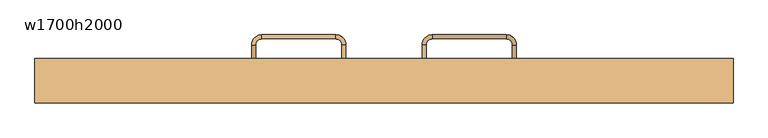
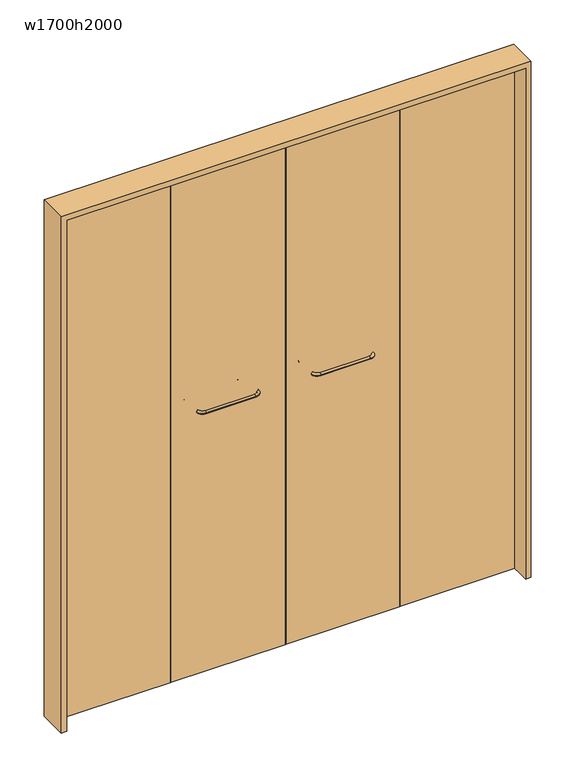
"""IFC4 building model written with IfcOpenShell, lengths in millimetres: door geometry, 木製折戸 : w1700h2000."""

from ifc_helpers import new_model, si_unit, point, frame, origin, origin_with_axes, place, context, project, spatial, polyline, circle_curve, ellipse_curve, trimmed, outline, extrude, source, transform, mapped, element, save
from ifc_brep_helpers import cylinder_surface, revolved_surface, advanced_brep


def w1700h2000_7aeca4b8(model_context):
    return source(origin(), model_context, "Body", "SolidModel", [
        extrude(outline(polyline([(2020.0, -870.0), (0.0, -870.0), (0.0, -850.0), (2000.0, -850.0), (2000.0, 850.0), (0.0, 850.0), (0.0, 870.0), (2020.0, 870.0), (2020.0, -870.0)])), frame((0.0, -55.0, 0.0), z_axis=(0.0, 1.0, 0.0), x_axis=(0.0, 0.0, 1.0)), (0.0, 0.0, 1.0), 110.0),
        extrude(outline(polyline([(423.0, 15.0), (2.0, 15.0), (2.0, 45.0), (423.0, 45.0), (423.0, 15.0)])), origin_with_axes(), (0.0, 0.0, 1.0), 2000.0),
        extrude(outline(polyline([(850.0, 15.0), (427.0, 15.0), (427.0, 45.0), (850.0, 45.0), (850.0, 15.0)])), origin_with_axes(), (0.0, 0.0, 1.0), 2000.0),
        extrude(outline(polyline([(-2.0, 15.0), (-423.0, 15.0), (-423.0, 45.0), (-2.0, 45.0), (-2.0, 15.0)])), origin_with_axes(), (0.0, 0.0, 1.0), 2000.0),
        extrude(outline(polyline([(-427.0, 15.0), (-850.0, 15.0), (-850.0, 45.0), (-427.0, 45.0), (-427.0, 15.0)])), origin_with_axes(), (0.0, 0.0, 1.0), 2000.0),
        advanced_brep(
        [(95.0, 20.0, 1025.0), (120.0, -5.0, 1025.0), (120.0, 5.0, 1025.0), (105.0, 20.0, 1025.0), (105.0, 90.0, 1025.0), (95.0, 90.0, 1025.0), (120.0, 115.0, 1025.0), (120.0, 105.0, 1025.0), (305.0, 105.0, 1025.0), (305.0, 115.0, 1025.0), (330.0, 90.0, 1025.0), (320.0, 90.0, 1025.0), (320.0, 20.0, 1025.0), (330.0, 20.0, 1025.0), (305.0, -5.0, 1025.0), (305.0, 5.0, 1025.0)],
        [
            (0, 1, circle_curve(frame((120.0, 20.0, 1025.0), z_axis=(0.0, 0.0, 1.0), x_axis=(0.0, -1.0, 0.0)), 25.0)),
            (1, 2, circle_curve(frame((120.0, 0.0, 1025.0), z_axis=(-1.0, 0.0, 0.0), x_axis=(0.0, -1.0, 0.0)), 5.0)),
            (2, 3, circle_curve(frame((120.0, 20.0, 1025.0), z_axis=(0.0, 0.0, -1.0), x_axis=(0.0, -1.0, 0.0)), 15.0)),
            (3, 0, circle_curve(frame((100.0, 20.0, 1025.0), z_axis=(0.0, -1.0, 0.0), x_axis=(-1.0, 0.0, 0.0)), 5.0)),
            (2, 1, circle_curve(frame((120.0, 0.0, 1025.0), z_axis=(-1.0, 0.0, 0.0), x_axis=(0.0, -1.0, 0.0)), 5.0)),
            (0, 3, circle_curve(frame((100.0, 20.0, 1025.0), z_axis=(0.0, -1.0, 0.0), x_axis=(-1.0, 0.0, 0.0)), 5.0)),
            (3, 4),
            (4, 5, circle_curve(frame((100.0, 90.0, 1025.0), z_axis=(0.0, -1.0, 0.0), x_axis=(-1.0, 0.0, 0.0)), 5.0)),
            (5, 0),
            (5, 4, circle_curve(frame((100.0, 90.0, 1025.0), z_axis=(0.0, -1.0, 0.0), x_axis=(-1.0, 0.0, 0.0)), 5.0)),
            (6, 5, circle_curve(frame((120.0, 90.0, 1025.0), z_axis=(0.0, 0.0, 1.0), x_axis=(-1.0, 0.0, 0.0)), 25.0)),
            (4, 7, circle_curve(frame((120.0, 90.0, 1025.0), z_axis=(0.0, 0.0, -1.0), x_axis=(-1.0, 0.0, 0.0)), 15.0)),
            (7, 6, circle_curve(frame((120.0, 110.0, 1025.0), z_axis=(-1.0, 0.0, 0.0), x_axis=(0.0, 1.0, 0.0)), 5.0)),
            (6, 7, circle_curve(frame((120.0, 110.0, 1025.0), z_axis=(-1.0, 0.0, 0.0), x_axis=(0.0, 1.0, 0.0)), 5.0)),
            (7, 8),
            (8, 9, circle_curve(frame((305.0, 110.0, 1025.0), z_axis=(-1.0, 0.0, 0.0), x_axis=(0.0, 1.0, 0.0)), 5.0)),
            (9, 6),
            (9, 8, circle_curve(frame((305.0, 110.0, 1025.0), z_axis=(-1.0, 0.0, 0.0), x_axis=(0.0, 1.0, 0.0)), 5.0)),
            (10, 9, circle_curve(frame((305.0, 90.0, 1025.0), z_axis=(0.0, 0.0, 1.0), x_axis=(0.0, 1.0, 0.0)), 25.0)),
            (8, 11, circle_curve(frame((305.0, 90.0, 1025.0), z_axis=(0.0, 0.0, -1.0), x_axis=(0.0, 1.0, 0.0)), 15.0)),
            (11, 10, circle_curve(frame((325.0, 90.0, 1025.0), z_axis=(0.0, 1.0, 0.0), x_axis=(1.0, 0.0, 0.0)), 5.0)),
            (10, 11, circle_curve(frame((325.0, 90.0, 1025.0), z_axis=(0.0, 1.0, 0.0), x_axis=(1.0, 0.0, 0.0)), 5.0)),
            (11, 12),
            (12, 13, circle_curve(frame((325.0, 20.0, 1025.0), z_axis=(0.0, 1.0, 0.0), x_axis=(1.0, 0.0, 0.0)), 5.0)),
            (13, 10),
            (13, 12, circle_curve(frame((325.0, 20.0, 1025.0), z_axis=(0.0, 1.0, 0.0), x_axis=(1.0, 0.0, 0.0)), 5.0)),
            (14, 13, circle_curve(frame((305.0, 20.0, 1025.0), z_axis=(0.0, 0.0, 1.0), x_axis=(1.0, 0.0, 0.0)), 25.0)),
            (12, 15, circle_curve(frame((305.0, 20.0, 1025.0), z_axis=(0.0, 0.0, -1.0), x_axis=(1.0, 0.0, 0.0)), 15.0)),
            (15, 14, circle_curve(frame((305.0, 0.0, 1025.0), z_axis=(1.0, 0.0, 0.0), x_axis=(0.0, -1.0, 0.0)), 5.0)),
            (14, 15, circle_curve(frame((305.0, 0.0, 1025.0), z_axis=(1.0, 0.0, 0.0), x_axis=(0.0, -1.0, 0.0)), 5.0)),
            (15, 2),
            (1, 14),
        ],
        [
            revolved_surface(trimmed(ellipse_curve(frame((120.0, 0.0, 1025.0), z_axis=(1.0, 0.0, 0.0), x_axis=(0.0, -1.0, 0.0)), 5.0, 5.0), [point((120.0, 5.0, 1025.0))], [point((120.0, -5.0, 1025.0))], True, "CARTESIAN"), (120.0, 20.0, 0.0), (0.0, 0.0, -1.0)),
            revolved_surface(trimmed(ellipse_curve(frame((120.0, 0.0, 1025.0), z_axis=(1.0, 0.0, 0.0), x_axis=(0.0, -1.0, 0.0)), 5.0, 5.0), [point((120.0, -5.0, 1025.0))], [point((120.0, 5.0, 1025.0))], True, "CARTESIAN"), (120.0, 20.0, 0.0), (0.0, 0.0, -1.0)),
            cylinder_surface(frame((100.0, 20.0, 1025.0), z_axis=(0.0, -1.0, 0.0), x_axis=(-1.0, 0.0, 0.0)), 5.0),
            revolved_surface(trimmed(ellipse_curve(frame((100.0, 90.0, 1025.0), z_axis=(0.0, -1.0, 0.0), x_axis=(-1.0, 0.0, 0.0)), 5.0, 5.0), [point((105.0, 90.0, 1025.0))], [point((95.0, 90.0, 1025.0))], True, "CARTESIAN"), (120.0, 90.0, 0.0), (0.0, 0.0, -1.0)),
            revolved_surface(trimmed(ellipse_curve(frame((100.0, 90.0, 1025.0), z_axis=(0.0, -1.0, 0.0), x_axis=(-1.0, 0.0, 0.0)), 5.0, 5.0), [point((95.0, 90.0, 1025.0))], [point((105.0, 90.0, 1025.0))], True, "CARTESIAN"), (120.0, 90.0, 0.0), (0.0, 0.0, -1.0)),
            cylinder_surface(frame((120.0, 110.0, 1025.0), z_axis=(-1.0, 0.0, 0.0), x_axis=(0.0, 1.0, 0.0)), 5.0),
            revolved_surface(trimmed(ellipse_curve(frame((305.0, 110.0, 1025.0), z_axis=(-1.0, 0.0, 0.0), x_axis=(0.0, 1.0, 0.0)), 5.0, 5.0), [point((305.0, 105.0, 1025.0))], [point((305.0, 115.0, 1025.0))], True, "CARTESIAN"), (305.0, 90.0, 0.0), (0.0, 0.0, -1.0)),
            revolved_surface(trimmed(ellipse_curve(frame((305.0, 110.0, 1025.0), z_axis=(-1.0, 0.0, 0.0), x_axis=(0.0, 1.0, 0.0)), 5.0, 5.0), [point((305.0, 115.0, 1025.0))], [point((305.0, 105.0, 1025.0))], True, "CARTESIAN"), (305.0, 90.0, 0.0), (0.0, 0.0, -1.0)),
            cylinder_surface(frame((325.0, 90.0, 1025.0), z_axis=(0.0, 1.0, 0.0), x_axis=(1.0, 0.0, 0.0)), 5.0),
            revolved_surface(trimmed(ellipse_curve(frame((325.0, 20.0, 1025.0), z_axis=(0.0, 1.0, 0.0), x_axis=(1.0, 0.0, 0.0)), 5.0, 5.0), [point((320.0, 20.0, 1025.0))], [point((330.0, 20.0, 1025.0))], True, "CARTESIAN"), (305.0, 20.0, 0.0), (0.0, 0.0, -1.0)),
            revolved_surface(trimmed(ellipse_curve(frame((325.0, 20.0, 1025.0), z_axis=(0.0, 1.0, 0.0), x_axis=(1.0, 0.0, 0.0)), 5.0, 5.0), [point((330.0, 20.0, 1025.0))], [point((320.0, 20.0, 1025.0))], True, "CARTESIAN"), (305.0, 20.0, 0.0), (0.0, 0.0, -1.0)),
            cylinder_surface(frame((305.0, 0.0, 1025.0), z_axis=(1.0, 0.0, 0.0), x_axis=(0.0, -1.0, 0.0)), 5.0),
        ],
        [
            (0, [[1, 2, 3, 4]]),
            (1, [[-3, 5, -1, 6]]),
            (2, [[-4, 7, 8, 9]]),
            (2, [[-6, -9, 10, -7]]),
            (3, [[11, -8, 12, 13]]),
            (4, [[-12, -10, -11, 14]]),
            (5, [[-13, 15, 16, 17]]),
            (5, [[-14, -17, 18, -15]]),
            (6, [[19, -16, 20, 21]]),
            (7, [[-20, -18, -19, 22]]),
            (8, [[-21, 23, 24, 25]]),
            (8, [[-22, -25, 26, -23]]),
            (9, [[27, -24, 28, 29]]),
            (10, [[-28, -26, -27, 30]]),
            (11, [[-29, 31, -2, 32]]),
            (11, [[-30, -32, -5, -31]]),
        ],
    ),
        advanced_brep(
        [(-105.0, 20.0, 1025.0), (-120.0, 5.0, 1025.0), (-120.0, -5.0, 1025.0), (-95.0, 20.0, 1025.0), (-95.0, 90.0, 1025.0), (-105.0, 90.0, 1025.0), (-120.0, 105.0, 1025.0), (-120.0, 115.0, 1025.0), (-305.0, 115.0, 1025.0), (-305.0, 105.0, 1025.0), (-320.0, 90.0, 1025.0), (-330.0, 90.0, 1025.0), (-330.0, 20.0, 1025.0), (-320.0, 20.0, 1025.0), (-305.0, 5.0, 1025.0), (-305.0, -5.0, 1025.0)],
        [
            (0, 1, circle_curve(frame((-120.0, 20.0, 1025.0), z_axis=(0.0, 0.0, -1.0), x_axis=(0.0, -1.0, 0.0)), 15.0)),
            (1, 2, circle_curve(frame((-120.0, 0.0, 1025.0), z_axis=(1.0, 0.0, 0.0), x_axis=(0.0, 1.0, 0.0)), 5.0)),
            (2, 3, circle_curve(frame((-120.0, 20.0, 1025.0), z_axis=(0.0, 0.0, 1.0), x_axis=(0.0, -1.0, 0.0)), 25.0)),
            (3, 0, circle_curve(frame((-100.0, 20.0, 1025.0), z_axis=(0.0, -1.0, 0.0), x_axis=(-1.0, 0.0, 0.0)), 5.0)),
            (2, 1, circle_curve(frame((-120.0, 0.0, 1025.0), z_axis=(1.0, 0.0, 0.0), x_axis=(0.0, 1.0, 0.0)), 5.0)),
            (0, 3, circle_curve(frame((-100.0, 20.0, 1025.0), z_axis=(0.0, -1.0, 0.0), x_axis=(-1.0, 0.0, 0.0)), 5.0)),
            (3, 4),
            (4, 5, circle_curve(frame((-100.0, 90.0, 1025.0), z_axis=(0.0, -1.0, 0.0), x_axis=(-1.0, 0.0, 0.0)), 5.0)),
            (5, 0),
            (5, 4, circle_curve(frame((-100.0, 90.0, 1025.0), z_axis=(0.0, -1.0, 0.0), x_axis=(-1.0, 0.0, 0.0)), 5.0)),
            (6, 5, circle_curve(frame((-120.0, 90.0, 1025.0), z_axis=(0.0, 0.0, -1.0), x_axis=(1.0, 0.0, 0.0)), 15.0)),
            (4, 7, circle_curve(frame((-120.0, 90.0, 1025.0), z_axis=(0.0, 0.0, 1.0), x_axis=(1.0, 0.0, 0.0)), 25.0)),
            (7, 6, circle_curve(frame((-120.0, 110.0, 1025.0), z_axis=(1.0, 0.0, 0.0), x_axis=(0.0, -1.0, 0.0)), 5.0)),
            (6, 7, circle_curve(frame((-120.0, 110.0, 1025.0), z_axis=(1.0, 0.0, 0.0), x_axis=(0.0, -1.0, 0.0)), 5.0)),
            (7, 8),
            (8, 9, circle_curve(frame((-305.0, 110.0, 1025.0), z_axis=(1.0, 0.0, 0.0), x_axis=(0.0, -1.0, 0.0)), 5.0)),
            (9, 6),
            (9, 8, circle_curve(frame((-305.0, 110.0, 1025.0), z_axis=(1.0, 0.0, 0.0), x_axis=(0.0, -1.0, 0.0)), 5.0)),
            (10, 9, circle_curve(frame((-305.0, 90.0, 1025.0), z_axis=(0.0, 0.0, -1.0), x_axis=(0.0, 1.0, 0.0)), 15.0)),
            (8, 11, circle_curve(frame((-305.0, 90.0, 1025.0), z_axis=(0.0, 0.0, 1.0), x_axis=(0.0, 1.0, 0.0)), 25.0)),
            (11, 10, circle_curve(frame((-325.0, 90.0, 1025.0), z_axis=(0.0, 1.0, 0.0), x_axis=(1.0, 0.0, 0.0)), 5.0)),
            (10, 11, circle_curve(frame((-325.0, 90.0, 1025.0), z_axis=(0.0, 1.0, 0.0), x_axis=(1.0, 0.0, 0.0)), 5.0)),
            (11, 12),
            (12, 13, circle_curve(frame((-325.0, 20.0, 1025.0), z_axis=(0.0, 1.0, 0.0), x_axis=(1.0, 0.0, 0.0)), 5.0)),
            (13, 10),
            (13, 12, circle_curve(frame((-325.0, 20.0, 1025.0), z_axis=(0.0, 1.0, 0.0), x_axis=(1.0, 0.0, 0.0)), 5.0)),
            (14, 13, circle_curve(frame((-305.0, 20.0, 1025.0), z_axis=(0.0, 0.0, -1.0), x_axis=(-1.0, 0.0, 0.0)), 15.0)),
            (12, 15, circle_curve(frame((-305.0, 20.0, 1025.0), z_axis=(0.0, 0.0, 1.0), x_axis=(-1.0, 0.0, 0.0)), 25.0)),
            (15, 14, circle_curve(frame((-305.0, 0.0, 1025.0), z_axis=(-1.0, 0.0, 0.0), x_axis=(0.0, 1.0, 0.0)), 5.0)),
            (14, 15, circle_curve(frame((-305.0, 0.0, 1025.0), z_axis=(-1.0, 0.0, 0.0), x_axis=(0.0, 1.0, 0.0)), 5.0)),
            (15, 2),
            (1, 14),
        ],
        [
            revolved_surface(trimmed(ellipse_curve(frame((-120.0, 0.0, 1025.0), z_axis=(-1.0, 0.0, 0.0), x_axis=(0.0, 1.0, 0.0)), 5.0, 5.0), [point((-120.0, -5.0, 1025.0))], [point((-120.0, 5.0, 1025.0))], True, "CARTESIAN"), (-120.0, 20.0, 0.0), (0.0, 0.0, 1.0)),
            revolved_surface(trimmed(ellipse_curve(frame((-120.0, 0.0, 1025.0), z_axis=(-1.0, 0.0, 0.0), x_axis=(0.0, 1.0, 0.0)), 5.0, 5.0), [point((-120.0, 5.0, 1025.0))], [point((-120.0, -5.0, 1025.0))], True, "CARTESIAN"), (-120.0, 20.0, 0.0), (0.0, 0.0, 1.0)),
            cylinder_surface(frame((-100.0, 20.0, 1025.0), z_axis=(0.0, -1.0, 0.0), x_axis=(-1.0, 0.0, 0.0)), 5.0),
            revolved_surface(trimmed(ellipse_curve(frame((-100.0, 90.0, 1025.0), z_axis=(0.0, -1.0, 0.0), x_axis=(-1.0, 0.0, 0.0)), 5.0, 5.0), [point((-95.0, 90.0, 1025.0))], [point((-105.0, 90.0, 1025.0))], True, "CARTESIAN"), (-120.0, 90.0, 0.0), (0.0, 0.0, 1.0)),
            revolved_surface(trimmed(ellipse_curve(frame((-100.0, 90.0, 1025.0), z_axis=(0.0, -1.0, 0.0), x_axis=(-1.0, 0.0, 0.0)), 5.0, 5.0), [point((-105.0, 90.0, 1025.0))], [point((-95.0, 90.0, 1025.0))], True, "CARTESIAN"), (-120.0, 90.0, 0.0), (0.0, 0.0, 1.0)),
            cylinder_surface(frame((-120.0, 110.0, 1025.0), z_axis=(1.0, 0.0, 0.0), x_axis=(0.0, -1.0, 0.0)), 5.0),
            revolved_surface(trimmed(ellipse_curve(frame((-305.0, 110.0, 1025.0), z_axis=(1.0, 0.0, 0.0), x_axis=(0.0, -1.0, 0.0)), 5.0, 5.0), [point((-305.0, 115.0, 1025.0))], [point((-305.0, 105.0, 1025.0))], True, "CARTESIAN"), (-305.0, 90.0, 0.0), (0.0, 0.0, 1.0)),
            revolved_surface(trimmed(ellipse_curve(frame((-305.0, 110.0, 1025.0), z_axis=(1.0, 0.0, 0.0), x_axis=(0.0, -1.0, 0.0)), 5.0, 5.0), [point((-305.0, 105.0, 1025.0))], [point((-305.0, 115.0, 1025.0))], True, "CARTESIAN"), (-305.0, 90.0, 0.0), (0.0, 0.0, 1.0)),
            cylinder_surface(frame((-325.0, 90.0, 1025.0), z_axis=(0.0, 1.0, 0.0), x_axis=(1.0, 0.0, 0.0)), 5.0),
            revolved_surface(trimmed(ellipse_curve(frame((-325.0, 20.0, 1025.0), z_axis=(0.0, 1.0, 0.0), x_axis=(1.0, 0.0, 0.0)), 5.0, 5.0), [point((-330.0, 20.0, 1025.0))], [point((-320.0, 20.0, 1025.0))], True, "CARTESIAN"), (-305.0, 20.0, 0.0), (0.0, 0.0, 1.0)),
            revolved_surface(trimmed(ellipse_curve(frame((-325.0, 20.0, 1025.0), z_axis=(0.0, 1.0, 0.0), x_axis=(1.0, 0.0, 0.0)), 5.0, 5.0), [point((-320.0, 20.0, 1025.0))], [point((-330.0, 20.0, 1025.0))], True, "CARTESIAN"), (-305.0, 20.0, 0.0), (0.0, 0.0, 1.0)),
            cylinder_surface(frame((-305.0, 0.0, 1025.0), z_axis=(-1.0, 0.0, 0.0), x_axis=(0.0, 1.0, 0.0)), 5.0),
        ],
        [
            (0, [[1, 2, 3, 4]]),
            (1, [[-3, 5, -1, 6]]),
            (2, [[-4, 7, 8, 9]]),
            (2, [[-6, -9, 10, -7]]),
            (3, [[11, -8, 12, 13]]),
            (4, [[-12, -10, -11, 14]]),
            (5, [[-13, 15, 16, 17]]),
            (5, [[-14, -17, 18, -15]]),
            (6, [[19, -16, 20, 21]]),
            (7, [[-20, -18, -19, 22]]),
            (8, [[-21, 23, 24, 25]]),
            (8, [[-22, -25, 26, -23]]),
            (9, [[27, -24, 28, 29]]),
            (10, [[-28, -26, -27, 30]]),
            (11, [[-29, 31, -2, 32]]),
            (11, [[-30, -32, -5, -31]]),
        ],
    ),
    ])


if __name__ == "__main__":
    model = new_model("IFC4")
    model_context = context("Model", 3, world=origin())
    ifc_project = project(units=[si_unit("LENGTHUNIT", "METRE", prefix="MILLI")], contexts=[model_context])
    site = spatial("IfcSite", under=ifc_project)
    building = spatial("IfcBuilding", under=site)
    placement = place(None, origin())
    w1700h2000_shape = w1700h2000_7aeca4b8(model_context)
    element("IfcDoor", 1, ObjectType="木製折戸 : w1700h2000", at=placement, inside=building, context=model_context, shape_type="MappedRepresentation", body=[
        mapped(w1700h2000_shape, transform((0.0, 0.0, 0.0), x_axis=(1.0, 0.0, 0.0), y_axis=(0.0, 1.0, 0.0), z_axis=(0.0, 0.0, 1.0))),
    ])
    save(model, "model.ifc")
